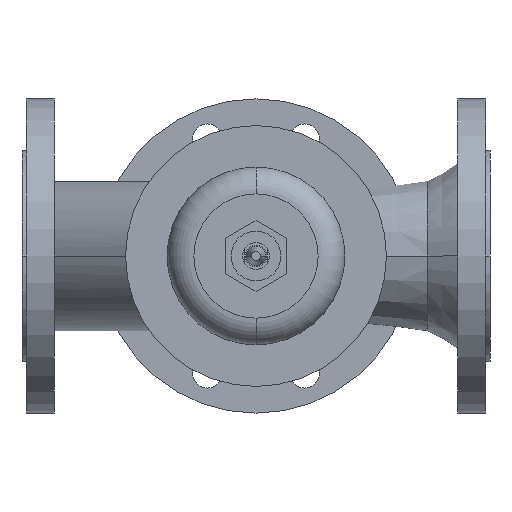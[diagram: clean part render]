
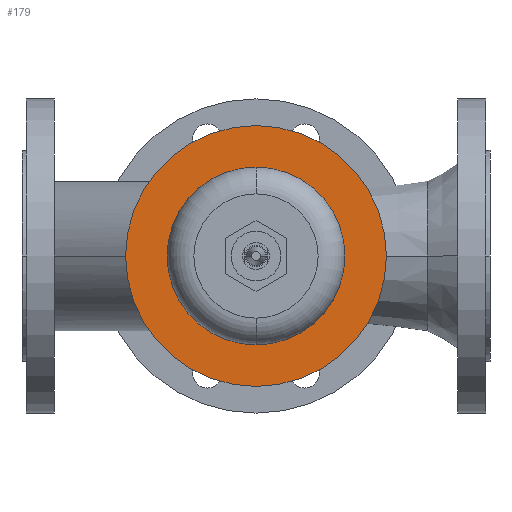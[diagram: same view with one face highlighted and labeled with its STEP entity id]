
A CAD part, front view. The second image highlights one B-rep face of the part: STEP entity #179.
In plain terms, the highlighted planar face has unit normal (0, -1, 0).
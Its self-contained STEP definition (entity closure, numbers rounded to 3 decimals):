
#179 = ADVANCED_FACE( '', ( #483, #484 ), #485, .T. );
#483 = FACE_OUTER_BOUND( '', #881, .T. );
#484 = FACE_BOUND( '', #882, .T. );
#485 = PLANE( '', #883 );
#881 = EDGE_LOOP( '', ( #1855, #1856 ) );
#882 = EDGE_LOOP( '', ( #1857, #1858 ) );
#883 = AXIS2_PLACEMENT_3D( '', #1859, #1860, #1861 );
#1855 = ORIENTED_EDGE( '', *, *, #2593, .T. );
#1856 = ORIENTED_EDGE( '', *, *, #2663, .T. );
#1857 = ORIENTED_EDGE( '', *, *, #2530, .F. );
#1858 = ORIENTED_EDGE( '', *, *, #2704, .F. );
#1859 = CARTESIAN_POINT( '', ( 92.5, -186., 0. ) );
#1860 = DIRECTION( '', ( 0., -1., 0. ) );
#1861 = DIRECTION( '', ( -1., 0., 0. ) );
#2530 = EDGE_CURVE( '', #3089, #3092, #3093, .T. );
#2593 = EDGE_CURVE( '', #3211, #3215, #3217, .T. );
#2663 = EDGE_CURVE( '', #3215, #3211, #3331, .T. );
#2704 = EDGE_CURVE( '', #3092, #3089, #3373, .T. );
#3089 = VERTEX_POINT( '', #4129 );
#3092 = VERTEX_POINT( '', #4133 );
#3093 = CIRCLE( '', #4134, 66.5 );
#3211 = VERTEX_POINT( '', #4281 );
#3215 = VERTEX_POINT( '', #4286 );
#3217 = CIRCLE( '', #4289, 97.5 );
#3331 = CIRCLE( '', #4443, 97.5 );
#3373 = CIRCLE( '', #4485, 66.5 );
#4129 = CARTESIAN_POINT( '', ( 108.5, -186., 0. ) );
#4133 = CARTESIAN_POINT( '', ( 241.5, -186., 0. ) );
#4134 = AXIS2_PLACEMENT_3D( '', #5090, #5091, #5092 );
#4281 = CARTESIAN_POINT( '', ( 272.5, -186., 0. ) );
#4286 = CARTESIAN_POINT( '', ( 77.5, -186., 0. ) );
#4289 = AXIS2_PLACEMENT_3D( '', #5217, #5218, #5219 );
#4443 = AXIS2_PLACEMENT_3D( '', #5347, #5348, #5349 );
#4485 = AXIS2_PLACEMENT_3D( '', #5470, #5471, #5472 );
#5090 = CARTESIAN_POINT( '', ( 175., -186., 0. ) );
#5091 = DIRECTION( '', ( 0., -1., 0. ) );
#5092 = DIRECTION( '', ( -1., 0., 0. ) );
#5217 = CARTESIAN_POINT( '', ( 175., -186., 0. ) );
#5218 = DIRECTION( '', ( 0., -1., 0. ) );
#5219 = DIRECTION( '', ( 1., 0., 0. ) );
#5347 = CARTESIAN_POINT( '', ( 175., -186., 0. ) );
#5348 = DIRECTION( '', ( 0., -1., 0. ) );
#5349 = DIRECTION( '', ( 1., 0., 0. ) );
#5470 = CARTESIAN_POINT( '', ( 175., -186., 0. ) );
#5471 = DIRECTION( '', ( 0., -1., 0. ) );
#5472 = DIRECTION( '', ( -1., 0., 0. ) );
